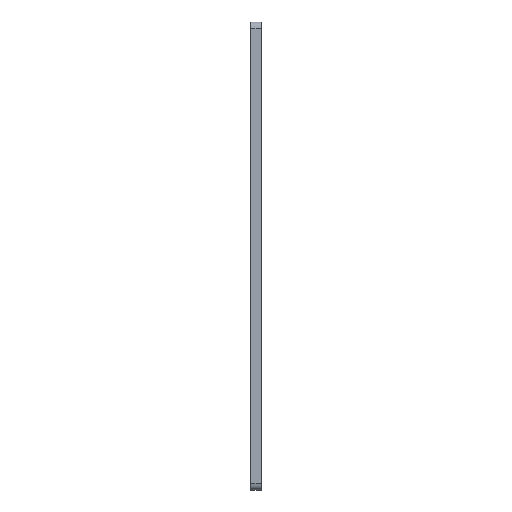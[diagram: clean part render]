
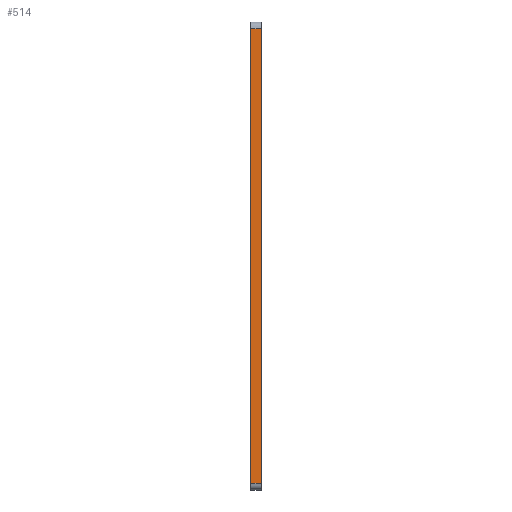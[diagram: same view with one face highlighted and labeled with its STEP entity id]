
A CAD part, left-side view. The second image highlights one B-rep face of the part: STEP entity #514.
In plain terms, the highlighted planar face has unit normal (-1, 0, 0).
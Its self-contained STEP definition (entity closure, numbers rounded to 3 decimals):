
#224 = ORIENTED_EDGE ( 'NONE', *, *, #3046, .T. ) ;
#323 = ORIENTED_EDGE ( 'NONE', *, *, #4825, .T. ) ;
#514 = ADVANCED_FACE ( 'NONE', ( #5739 ), #755, .F. ) ;
#630 = AXIS2_PLACEMENT_3D ( 'NONE', #6828, #9853, #2658 ) ;
#755 = PLANE ( 'NONE',  #630 ) ;
#1341 = EDGE_CURVE ( 'NONE', #2438, #3488, #7711, .T. ) ;
#1382 = VECTOR ( 'NONE', #6505, 1000. ) ;
#1665 = LINE ( 'NONE', #12523, #1382 ) ;
#1871 = VECTOR ( 'NONE', #12843, 1000. ) ;
#1876 = LINE ( 'NONE', #6707, #9176 ) ;
#2358 = EDGE_LOOP ( 'NONE', ( #11020, #224, #323, #3622 ) ) ;
#2438 = VERTEX_POINT ( 'NONE', #3683 ) ;
#2658 = DIRECTION ( 'NONE',  ( 0., 0., -1. ) ) ;
#2811 = DIRECTION ( 'NONE',  ( 0., 1., 0. ) ) ;
#3046 = EDGE_CURVE ( 'NONE', #8850, #5442, #1665, .T. ) ;
#3488 = VERTEX_POINT ( 'NONE', #10304 ) ;
#3622 = ORIENTED_EDGE ( 'NONE', *, *, #1341, .T. ) ;
#3683 = CARTESIAN_POINT ( 'NONE',  ( -185., 0., 175. ) ) ;
#4063 = EDGE_CURVE ( 'NONE', #8850, #3488, #11794, .T. ) ;
#4748 = DIRECTION ( 'NONE',  ( 0., 0., 1. ) ) ;
#4825 = EDGE_CURVE ( 'NONE', #5442, #2438, #1876, .T. ) ;
#5442 = VERTEX_POINT ( 'NONE', #5835 ) ;
#5739 = FACE_OUTER_BOUND ( 'NONE', #2358, .T. ) ;
#5835 = CARTESIAN_POINT ( 'NONE',  ( -185., 0., -495. ) ) ;
#5953 = CARTESIAN_POINT ( 'NONE',  ( -185., 15., 175. ) ) ;
#6505 = DIRECTION ( 'NONE',  ( 0., -1., 0. ) ) ;
#6707 = CARTESIAN_POINT ( 'NONE',  ( -185., 0., -505. ) ) ;
#6828 = CARTESIAN_POINT ( 'NONE',  ( -185., 15., -505. ) ) ;
#7711 = LINE ( 'NONE', #5953, #9394 ) ;
#8713 = CARTESIAN_POINT ( 'NONE',  ( -185., 15., -505. ) ) ;
#8850 = VERTEX_POINT ( 'NONE', #11293 ) ;
#9176 = VECTOR ( 'NONE', #4748, 1000. ) ;
#9394 = VECTOR ( 'NONE', #2811, 1000. ) ;
#9853 = DIRECTION ( 'NONE',  ( 1., 0., 0. ) ) ;
#10304 = CARTESIAN_POINT ( 'NONE',  ( -185., 15., 175. ) ) ;
#11020 = ORIENTED_EDGE ( 'NONE', *, *, #4063, .F. ) ;
#11293 = CARTESIAN_POINT ( 'NONE',  ( -185., 15., -495. ) ) ;
#11794 = LINE ( 'NONE', #8713, #1871 ) ;
#12523 = CARTESIAN_POINT ( 'NONE',  ( -185., 15., -495. ) ) ;
#12843 = DIRECTION ( 'NONE',  ( 0., 0., 1. ) ) ;
